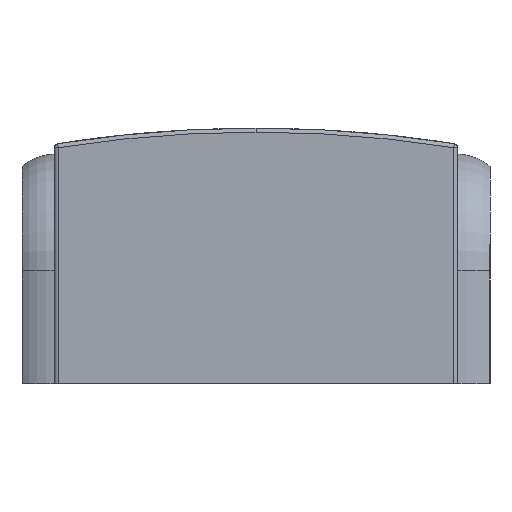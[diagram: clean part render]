
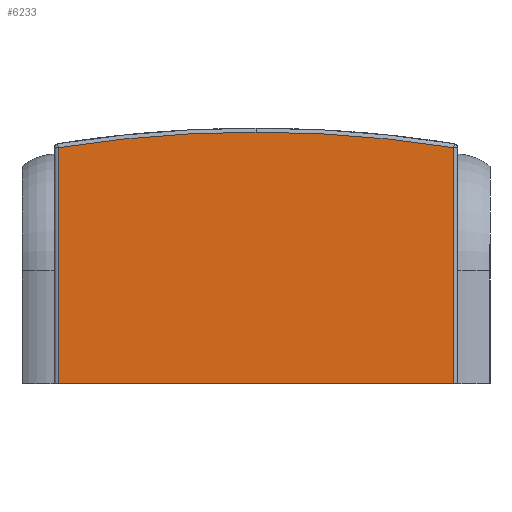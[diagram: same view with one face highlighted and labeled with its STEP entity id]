
A CAD part, front view. The second image highlights one B-rep face of the part: STEP entity #6233.
In plain terms, the highlighted planar face has unit normal (0, -1, 0).
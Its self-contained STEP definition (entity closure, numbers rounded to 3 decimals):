
#419 = VECTOR ( 'NONE', #13935, 1000. ) ;
#704 = VERTEX_POINT ( 'NONE', #7272 ) ;
#888 = DIRECTION ( 'NONE',  ( 0., -1., 0. ) ) ;
#2048 = CARTESIAN_POINT ( 'NONE',  ( -24.5, -26., 31.7 ) ) ;
#2589 = DIRECTION ( 'NONE',  ( 0., 0., 1. ) ) ;
#2823 = CARTESIAN_POINT ( 'NONE',  ( 0., -26., -125.6 ) ) ;
#4126 = EDGE_CURVE ( 'NONE', #4310, #19097, #4335, .T. ) ;
#4310 = VERTEX_POINT ( 'NONE', #17705 ) ;
#4335 = LINE ( 'NONE', #9279, #419 ) ;
#4867 = VERTEX_POINT ( 'NONE', #13339 ) ;
#5107 = AXIS2_PLACEMENT_3D ( 'NONE', #2823, #12827, #16696 ) ;
#6233 = ADVANCED_FACE ( 'NONE', ( #7733 ), #9556, .F. ) ;
#6719 = DIRECTION ( 'NONE',  ( 0., 0., -1. ) ) ;
#6957 = ORIENTED_EDGE ( 'NONE', *, *, #17202, .T. ) ;
#7100 = LINE ( 'NONE', #2048, #8878 ) ;
#7272 = CARTESIAN_POINT ( 'NONE',  ( -24.5, -26., 29.274 ) ) ;
#7733 = FACE_OUTER_BOUND ( 'NONE', #16152, .T. ) ;
#8225 = CARTESIAN_POINT ( 'NONE',  ( 24.5, -26., 31.7 ) ) ;
#8747 = CARTESIAN_POINT ( 'NONE',  ( 24.5, -26., 0. ) ) ;
#8878 = VECTOR ( 'NONE', #20237, 1000. ) ;
#9279 = CARTESIAN_POINT ( 'NONE',  ( 24.5, -26., 0. ) ) ;
#9556 = PLANE ( 'NONE',  #9636 ) ;
#9636 = AXIS2_PLACEMENT_3D ( 'NONE', #20758, #17872, #20975 ) ;
#10257 = CIRCLE ( 'NONE', #5107, 156.8 ) ;
#12827 = DIRECTION ( 'NONE',  ( 0., -1., 0. ) ) ;
#12856 = CIRCLE ( 'NONE', #17699, 156.8 ) ;
#13339 = CARTESIAN_POINT ( 'NONE',  ( 0., -26., 31.2 ) ) ;
#13615 = LINE ( 'NONE', #8225, #17831 ) ;
#13935 = DIRECTION ( 'NONE',  ( 1., 0., 0. ) ) ;
#14031 = CARTESIAN_POINT ( 'NONE',  ( 24.5, -26., 29.274 ) ) ;
#14168 = EDGE_CURVE ( 'NONE', #14272, #19097, #13615, .T. ) ;
#14272 = VERTEX_POINT ( 'NONE', #14031 ) ;
#14948 = ORIENTED_EDGE ( 'NONE', *, *, #4126, .T. ) ;
#16152 = EDGE_LOOP ( 'NONE', ( #16792, #6957, #17011, #20842, #14948 ) ) ;
#16696 = DIRECTION ( 'NONE',  ( 0., 0., 1. ) ) ;
#16792 = ORIENTED_EDGE ( 'NONE', *, *, #14168, .F. ) ;
#17011 = ORIENTED_EDGE ( 'NONE', *, *, #20061, .T. ) ;
#17202 = EDGE_CURVE ( 'NONE', #14272, #4867, #12856, .T. ) ;
#17699 = AXIS2_PLACEMENT_3D ( 'NONE', #20261, #888, #2589 ) ;
#17705 = CARTESIAN_POINT ( 'NONE',  ( -24.5, -26., 0. ) ) ;
#17831 = VECTOR ( 'NONE', #6719, 1000. ) ;
#17872 = DIRECTION ( 'NONE',  ( 0., 1., 0. ) ) ;
#19097 = VERTEX_POINT ( 'NONE', #8747 ) ;
#19169 = EDGE_CURVE ( 'NONE', #704, #4310, #7100, .T. ) ;
#20061 = EDGE_CURVE ( 'NONE', #4867, #704, #10257, .T. ) ;
#20237 = DIRECTION ( 'NONE',  ( 0., 0., -1. ) ) ;
#20261 = CARTESIAN_POINT ( 'NONE',  ( 0., -26., -125.6 ) ) ;
#20758 = CARTESIAN_POINT ( 'NONE',  ( 24.5, -26., 31.7 ) ) ;
#20842 = ORIENTED_EDGE ( 'NONE', *, *, #19169, .T. ) ;
#20975 = DIRECTION ( 'NONE',  ( 0., 0., 1. ) ) ;
